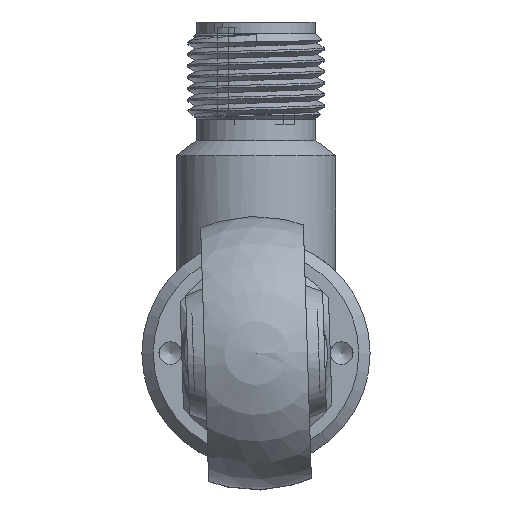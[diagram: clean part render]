
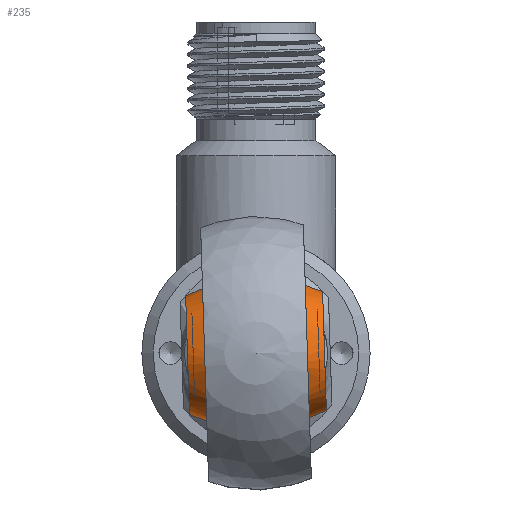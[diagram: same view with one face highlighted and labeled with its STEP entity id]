
A CAD part, left-side view. The second image highlights one B-rep face of the part: STEP entity #235.
In plain terms, the highlighted free-form (B-spline) face has degree [3, 3] with [4, 7] control points.
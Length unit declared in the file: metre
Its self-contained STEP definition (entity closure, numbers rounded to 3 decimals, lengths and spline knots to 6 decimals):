
#235 = ADVANCED_FACE( '', ( #511, #512 ), #513, .T. );
#511 = FACE_OUTER_BOUND( '', #911, .T. );
#512 = FACE_OUTER_BOUND( '', #912, .T. );
#513 = ( B_SPLINE_SURFACE( 3, 3, ( ( #914, #915, #916, #917, #918, #919, #920 ), ( #921, #922, #923, #924, #925, #926, #927 ), ( #928, #929, #930, #931, #932, #933, #934 ), ( #935, #936, #937, #938, #939, #940, #941 ) ), .UNSPECIFIED., .F., .T., .F. )B_SPLINE_SURFACE_WITH_KNOTS( ( 4, 4 ), ( 4, 3, 4 ), ( 0., 6.283185 ), ( -0.582914, 0., 0.582914 ), .UNSPECIFIED. )RATIONAL_B_SPLINE_SURFACE( ( ( 1., 0.333, 0.333, 1., 0.333, 0.333, 1. ), ( 0.89, 0.297, 0.297, 0.89, 0.297, 0.297, 0.89 ), ( 0.89, 0.297, 0.297, 0.89, 0.297, 0.297, 0.89 ), ( 1., 0.333, 0.333, 1., 0.333, 0.333, 1. ) ) )BOUNDED_SURFACE(  )REPRESENTATION_ITEM( '' )GEOMETRIC_REPRESENTATION_ITEM(  )SURFACE(  ) );
#911 = EDGE_LOOP( '', ( #2609 ) );
#912 = EDGE_LOOP( '', ( #2610 ) );
#914 = CARTESIAN_POINT( '', ( -0.524857, 0.006021, 0.00058 ) );
#915 = CARTESIAN_POINT( '', ( -0.523318, 0.005697, -0.0097 ) );
#916 = CARTESIAN_POINT( '', ( -0.533603, 0.005648, -0.011239 ) );
#917 = CARTESIAN_POINT( '', ( -0.535143, 0.005973, -0.000959 ) );
#918 = CARTESIAN_POINT( '', ( -0.536682, 0.006297, 0.009322 ) );
#919 = CARTESIAN_POINT( '', ( -0.526397, 0.006346, 0.01086 ) );
#920 = CARTESIAN_POINT( '', ( -0.524857, 0.006021, 0.00058 ) );
#921 = CARTESIAN_POINT( '', ( -0.52241, 0.002282, 0.001065 ) );
#922 = CARTESIAN_POINT( '', ( -0.520138, 0.001803, -0.014107 ) );
#923 = CARTESIAN_POINT( '', ( -0.535318, 0.001732, -0.016378 ) );
#924 = CARTESIAN_POINT( '', ( -0.53759, 0.00221, -0.001206 ) );
#925 = CARTESIAN_POINT( '', ( -0.539862, 0.002689, 0.013965 ) );
#926 = CARTESIAN_POINT( '', ( -0.524682, 0.002761, 0.016236 ) );
#927 = CARTESIAN_POINT( '', ( -0.52241, 0.002282, 0.001065 ) );
#928 = CARTESIAN_POINT( '', ( -0.52241, -0.00221, 0.001206 ) );
#929 = CARTESIAN_POINT( '', ( -0.520138, -0.002689, -0.013965 ) );
#930 = CARTESIAN_POINT( '', ( -0.535318, -0.002761, -0.016236 ) );
#931 = CARTESIAN_POINT( '', ( -0.53759, -0.002282, -0.001065 ) );
#932 = CARTESIAN_POINT( '', ( -0.539862, -0.001803, 0.014107 ) );
#933 = CARTESIAN_POINT( '', ( -0.524682, -0.001732, 0.016378 ) );
#934 = CARTESIAN_POINT( '', ( -0.52241, -0.00221, 0.001206 ) );
#935 = CARTESIAN_POINT( '', ( -0.524857, -0.005973, 0.000959 ) );
#936 = CARTESIAN_POINT( '', ( -0.523318, -0.006297, -0.009322 ) );
#937 = CARTESIAN_POINT( '', ( -0.533603, -0.006346, -0.01086 ) );
#938 = CARTESIAN_POINT( '', ( -0.535143, -0.006021, -0.00058 ) );
#939 = CARTESIAN_POINT( '', ( -0.536682, -0.005697, 0.0097 ) );
#940 = CARTESIAN_POINT( '', ( -0.526397, -0.005648, 0.011239 ) );
#941 = CARTESIAN_POINT( '', ( -0.524857, -0.005973, 0.000959 ) );
#2609 = ORIENTED_EDGE( '', *, *, #3270, .F. );
#2610 = ORIENTED_EDGE( '', *, *, #3271, .T. );
#3270 = EDGE_CURVE( '', #3783, #3783, #3784, .T. );
#3271 = EDGE_CURVE( '', #3785, #3785, #3786, .T. );
#3783 = VERTEX_POINT( '', #4711 );
#3784 = CIRCLE( '', #4712, 0.0052 );
#3785 = VERTEX_POINT( '', #4713 );
#3786 = CIRCLE( '', #4714, 0.0052 );
#4711 = CARTESIAN_POINT( '', ( -0.524857, 0.006021, 0.00058 ) );
#4712 = AXIS2_PLACEMENT_3D( '', #9030, #9031, #9032 );
#4713 = CARTESIAN_POINT( '', ( -0.524857, -0.005973, 0.000959 ) );
#4714 = AXIS2_PLACEMENT_3D( '', #9033, #9034, #9035 );
#9030 = CARTESIAN_POINT( '', ( -0.53, 0.005997, -0.000189 ) );
#9031 = DIRECTION( '', ( 0., 1., -0.032 ) );
#9032 = DIRECTION( '', ( 0.989, 0.005, 0.148 ) );
#9033 = CARTESIAN_POINT( '', ( -0.53, -0.005997, 0.000189 ) );
#9034 = DIRECTION( '', ( 0., 1., -0.032 ) );
#9035 = DIRECTION( '', ( 0.989, 0.005, 0.148 ) );
